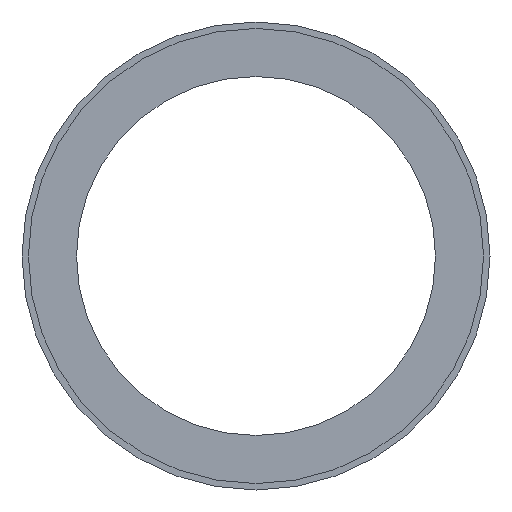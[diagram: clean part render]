
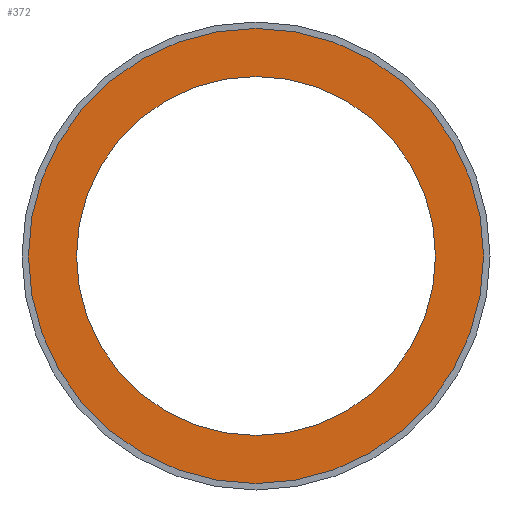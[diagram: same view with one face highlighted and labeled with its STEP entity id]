
A CAD part, front view. The second image highlights one B-rep face of the part: STEP entity #372.
In plain terms, the highlighted planar face has unit normal (0, -1, 0).
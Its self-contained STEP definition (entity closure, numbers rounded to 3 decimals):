
#110 = DIRECTION ( 'NONE',  ( 0., 0., -1. ) ) ;
#140 = EDGE_CURVE ( 'NONE', #6678, #586, #2782, .T. ) ;
#211 = DIRECTION ( 'NONE',  ( 0., 0., -1. ) ) ;
#289 = DIRECTION ( 'NONE',  ( 0., 0., 1. ) ) ;
#372 = ADVANCED_FACE ( 'NONE', ( #741, #6317 ), #3061, .F. ) ;
#586 = VERTEX_POINT ( 'NONE', #4645 ) ;
#741 = FACE_BOUND ( 'NONE', #2391, .T. ) ;
#1222 = EDGE_CURVE ( 'NONE', #3787, #1890, #4014, .T. ) ;
#1406 = AXIS2_PLACEMENT_3D ( 'NONE', #5671, #6225, #289 ) ;
#1648 = CIRCLE ( 'NONE', #5907, 177.5 ) ;
#1801 = AXIS2_PLACEMENT_3D ( 'NONE', #5566, #6058, #110 ) ;
#1819 = ORIENTED_EDGE ( 'NONE', *, *, #3621, .T. ) ;
#1890 = VERTEX_POINT ( 'NONE', #6471 ) ;
#2366 = CARTESIAN_POINT ( 'NONE',  ( 0., -43.5, 0. ) ) ;
#2391 = EDGE_LOOP ( 'NONE', ( #3048, #3748 ) ) ;
#2782 = CIRCLE ( 'NONE', #4706, 177.5 ) ;
#3048 = ORIENTED_EDGE ( 'NONE', *, *, #3645, .F. ) ;
#3061 = PLANE ( 'NONE',  #1406 ) ;
#3272 = CARTESIAN_POINT ( 'NONE',  ( 0., -43.5, -177.5 ) ) ;
#3320 = CARTESIAN_POINT ( 'NONE',  ( 0., -43.5, 0. ) ) ;
#3426 = CARTESIAN_POINT ( 'NONE',  ( 0., -43.5, 0. ) ) ;
#3621 = EDGE_CURVE ( 'NONE', #586, #6678, #1648, .T. ) ;
#3645 = EDGE_CURVE ( 'NONE', #1890, #3787, #4841, .T. ) ;
#3748 = ORIENTED_EDGE ( 'NONE', *, *, #1222, .F. ) ;
#3787 = VERTEX_POINT ( 'NONE', #4639 ) ;
#4014 = CIRCLE ( 'NONE', #4030, 140. ) ;
#4030 = AXIS2_PLACEMENT_3D ( 'NONE', #2366, #5025, #5587 ) ;
#4350 = EDGE_LOOP ( 'NONE', ( #6556, #1819 ) ) ;
#4639 = CARTESIAN_POINT ( 'NONE',  ( 0., -43.5, 140. ) ) ;
#4645 = CARTESIAN_POINT ( 'NONE',  ( 0., -43.5, 177.5 ) ) ;
#4706 = AXIS2_PLACEMENT_3D ( 'NONE', #3320, #6603, #6052 ) ;
#4841 = CIRCLE ( 'NONE', #1801, 140. ) ;
#5025 = DIRECTION ( 'NONE',  ( 0., -1., 0. ) ) ;
#5053 = DIRECTION ( 'NONE',  ( 0., -1., 0. ) ) ;
#5566 = CARTESIAN_POINT ( 'NONE',  ( 0., -43.5, 0. ) ) ;
#5587 = DIRECTION ( 'NONE',  ( 0., 0., -1. ) ) ;
#5671 = CARTESIAN_POINT ( 'NONE',  ( 0., -43.5, 140. ) ) ;
#5907 = AXIS2_PLACEMENT_3D ( 'NONE', #3426, #5053, #211 ) ;
#6052 = DIRECTION ( 'NONE',  ( 0., 0., -1. ) ) ;
#6058 = DIRECTION ( 'NONE',  ( 0., -1., 0. ) ) ;
#6225 = DIRECTION ( 'NONE',  ( 0., 1., 0. ) ) ;
#6317 = FACE_OUTER_BOUND ( 'NONE', #4350, .T. ) ;
#6471 = CARTESIAN_POINT ( 'NONE',  ( 0., -43.5, -140. ) ) ;
#6556 = ORIENTED_EDGE ( 'NONE', *, *, #140, .T. ) ;
#6603 = DIRECTION ( 'NONE',  ( 0., -1., 0. ) ) ;
#6678 = VERTEX_POINT ( 'NONE', #3272 ) ;
